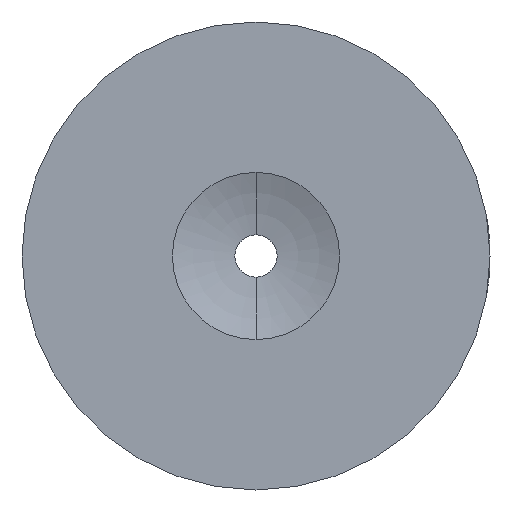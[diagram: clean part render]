
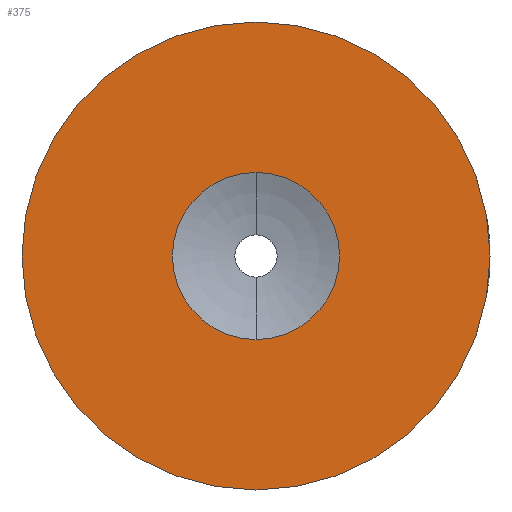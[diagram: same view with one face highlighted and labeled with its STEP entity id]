
A CAD part, left-side view. The second image highlights one B-rep face of the part: STEP entity #375.
In plain terms, the highlighted planar face has unit normal (-1, 0, 0).
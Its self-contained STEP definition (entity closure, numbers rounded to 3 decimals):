
#23 = CARTESIAN_POINT ( 'NONE',  ( 0., 0., 0. ) ) ;
#26 = DIRECTION ( 'NONE',  ( 0., 0., -1. ) ) ;
#29 = DIRECTION ( 'NONE',  ( 0., 0., 1. ) ) ;
#32 = EDGE_CURVE ( 'NONE', #347, #123, #54, .T. ) ;
#34 = DIRECTION ( 'NONE',  ( 0., 0., 1. ) ) ;
#54 = CIRCLE ( 'NONE', #322, 14. ) ;
#66 = DIRECTION ( 'NONE',  ( 0., 0., 1. ) ) ;
#98 = DIRECTION ( 'NONE',  ( -1., 0., 0. ) ) ;
#108 = CARTESIAN_POINT ( 'NONE',  ( 0., 0., 0. ) ) ;
#116 = PLANE ( 'NONE',  #407 ) ;
#123 = VERTEX_POINT ( 'NONE', #377 ) ;
#149 = CARTESIAN_POINT ( 'NONE',  ( 0., 0., 0. ) ) ;
#161 = CARTESIAN_POINT ( 'NONE',  ( 0., 0., 0. ) ) ;
#184 = CARTESIAN_POINT ( 'NONE',  ( 0., 1.25, 0. ) ) ;
#186 = FACE_BOUND ( 'NONE', #297, .T. ) ;
#188 = ORIENTED_EDGE ( 'NONE', *, *, #301, .T. ) ;
#219 = CIRCLE ( 'NONE', #445, 14. ) ;
#254 = VERTEX_POINT ( 'NONE', #512 ) ;
#267 = ORIENTED_EDGE ( 'NONE', *, *, #281, .F. ) ;
#277 = DIRECTION ( 'NONE',  ( 1., 0., 0. ) ) ;
#281 = EDGE_CURVE ( 'NONE', #402, #254, #398, .T. ) ;
#286 = AXIS2_PLACEMENT_3D ( 'NONE', #108, #529, #29 ) ;
#293 = EDGE_LOOP ( 'NONE', ( #188, #535 ) ) ;
#296 = DIRECTION ( 'NONE',  ( -1., 0., 0. ) ) ;
#297 = EDGE_LOOP ( 'NONE', ( #267, #482 ) ) ;
#301 = EDGE_CURVE ( 'NONE', #123, #347, #219, .T. ) ;
#322 = AXIS2_PLACEMENT_3D ( 'NONE', #161, #296, #541 ) ;
#340 = CARTESIAN_POINT ( 'NONE',  ( 0., 0., 5. ) ) ;
#347 = VERTEX_POINT ( 'NONE', #478 ) ;
#363 = AXIS2_PLACEMENT_3D ( 'NONE', #23, #448, #34 ) ;
#375 = ADVANCED_FACE ( 'NONE', ( #186, #516 ), #116, .F. ) ;
#377 = CARTESIAN_POINT ( 'NONE',  ( 0., 0., 14. ) ) ;
#395 = CIRCLE ( 'NONE', #286, 5. ) ;
#398 = CIRCLE ( 'NONE', #363, 5. ) ;
#402 = VERTEX_POINT ( 'NONE', #340 ) ;
#407 = AXIS2_PLACEMENT_3D ( 'NONE', #184, #277, #26 ) ;
#445 = AXIS2_PLACEMENT_3D ( 'NONE', #149, #98, #66 ) ;
#448 = DIRECTION ( 'NONE',  ( -1., 0., 0. ) ) ;
#478 = CARTESIAN_POINT ( 'NONE',  ( 0., 0., -14. ) ) ;
#482 = ORIENTED_EDGE ( 'NONE', *, *, #530, .F. ) ;
#512 = CARTESIAN_POINT ( 'NONE',  ( 0., 0., -5. ) ) ;
#516 = FACE_OUTER_BOUND ( 'NONE', #293, .T. ) ;
#529 = DIRECTION ( 'NONE',  ( -1., 0., 0. ) ) ;
#530 = EDGE_CURVE ( 'NONE', #254, #402, #395, .T. ) ;
#535 = ORIENTED_EDGE ( 'NONE', *, *, #32, .T. ) ;
#541 = DIRECTION ( 'NONE',  ( 0., 0., 1. ) ) ;
